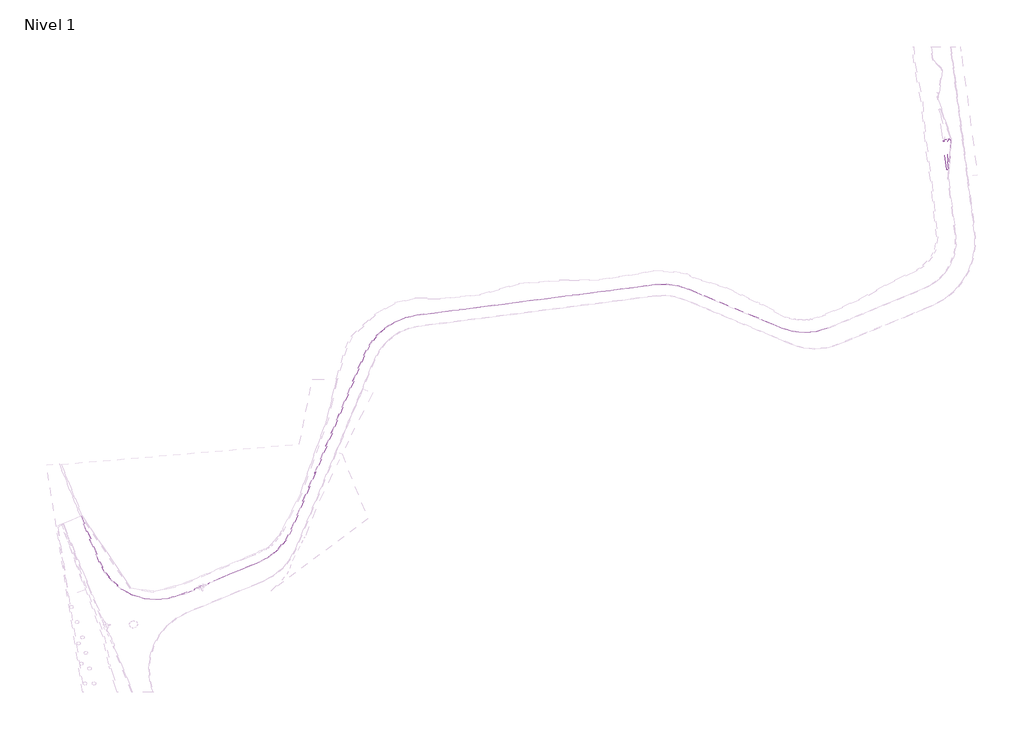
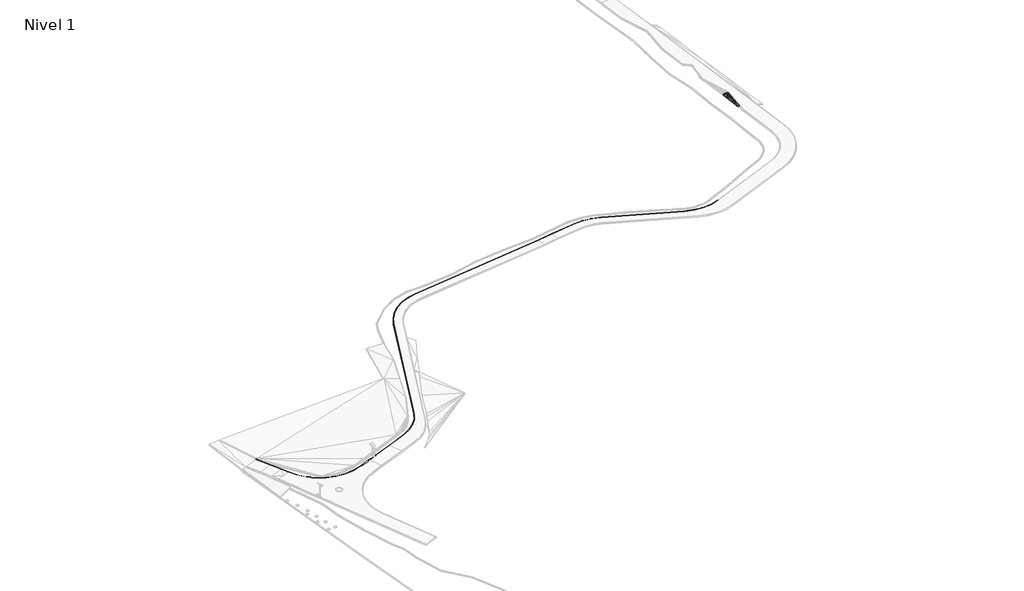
# One storey, part 27 of 45: 2 slabs.
"""IFC4 building model written with IfcOpenShell, lengths in millimetres."""

from ifc_helpers import new_model, si_unit, frame, origin, place, context, project, spatial, polyline, circle_curve, element, save
from ifc_brep_helpers import plane_surface, cylinder_surface, revolved_surface, spline_surface, advanced_brep

model = new_model("IFC4")

# Units and contexts
model_context = context("Model", 3, world=origin())
ifc_project = project(units=[si_unit("LENGTHUNIT", "METRE", prefix="MILLI")], contexts=[model_context])

# Site, building, storey
site = spatial("IfcSite", under=ifc_project)
building = spatial("IfcBuilding", under=site)
storey = spatial("IfcBuildingStorey", under=building, Name="Nivel 1", Elevation=0.0)

# Slabs
placement = place(None, origin())
element("IfcSlab", 1, ObjectType="Lippia", at=placement, inside=storey, context=model_context, shape_type="AdvancedBrep", body=[
    advanced_brep(
    [(-162567.5786683, 494090.7558969, 4450.0), (-162567.5786683, 494090.7558969, 4750.0), (-161681.6513238, 494205.5651445, 4750.0), (-161681.6513238, 494205.5651445, 4450.0), (-161118.6784253, 493673.8662935, 4750.0), (-161118.6784253, 493673.8662935, 4450.0), (-161602.2888203, 486628.6726183, 4750.0), (-161602.2888203, 486628.6726183, 4450.0), (-162099.7928073, 486614.9221203, 4450.0), (-162099.7928073, 486614.9221203, 4750.0), (-162996.2034352, 493532.943617, 4750.0), (-162996.2034352, 493532.943617, 4450.0), (-161802.7474019, 493520.0759594, 5050.0), (-162291.6279719, 493627.6527711, 5050.0), (-161802.7474019, 493520.0759594, 4750.0), (-162291.6279719, 493627.6527711, 4750.0), (-161820.5490628, 491797.9016837, 5250.0), (-161703.3309197, 492062.872506, 5250.0), (-161586.1127766, 492327.8433283, 5250.0), (-161748.7619098, 492670.117686, 5250.0), (-162169.7727813, 492513.350411, 5250.0), (-162232.1284052, 492231.3328847, 5250.0), (-162283.6264845, 491998.4210795, 5250.0), (-162126.0521675, 491659.087425, 5250.0), (-161820.5490628, 491797.9016837, 4950.0), (-162126.0521675, 491659.087425, 4950.0), (-162283.6264845, 491998.4210795, 4950.0), (-162232.1284052, 492231.3328847, 4950.0), (-162169.7727813, 492513.350411, 4950.0), (-161748.7619098, 492670.117686, 4950.0), (-161586.1127766, 492327.8433283, 4950.0), (-161703.3309197, 492062.872506, 4950.0), (-162592.8222153, 493348.0731927, 5050.0), (-162515.4237278, 493566.7206989, 5050.0), (-162592.8222153, 493348.0731927, 4750.0), (-162515.4237278, 493566.7206989, 4750.0), (-161498.579278, 493321.1299659, 5050.0), (-161498.579278, 493321.1299659, 4750.0), (-161409.4960466, 492968.7637731, 5050.0), (-161704.9330823, 490516.0778728, 5050.0), (-161704.9330823, 490516.0778728, 4750.0), (-161409.4960466, 492968.7637731, 4750.0), (-162200.787699, 490511.7668194, 5050.0), (-162200.787699, 490511.7668194, 4750.0), (-161950.95489, 490295.9854212, 5050.0), (-161950.95489, 490295.9854212, 4750.0)],
    [
        (0, 1),
        (1, 2),
        (2, 3),
        (3, 0),
        (2, 4, circle_curve(frame((-161617.3921342, 493709.7081092, 4750.0), z_axis=(0.0, 0.0, -1.0), x_axis=(0.9764306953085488, 0.21583117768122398, 0.0)), 499.9999992)),
        (4, 5),
        (5, 3, circle_curve(frame((-161617.3921342, 493709.7081092, 4450.0), z_axis=(0.0, 0.0, 1.0), x_axis=(0.9764306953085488, 0.21583117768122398, 0.0)), 499.9999992)),
        (4, 6),
        (6, 7),
        (7, 5),
        (8, 9),
        (9, 10),
        (10, 11),
        (11, 8),
        (10, 1, circle_curve(frame((-162500.1106055, 493595.3287472, 4750.0), z_axis=(0.0, 0.0, -1.0), x_axis=(0.9764306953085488, 0.21583117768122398, 0.0)), 500.0000001)),
        (0, 11, circle_curve(frame((-162500.1106055, 493595.3287472, 4450.0), z_axis=(0.0, 0.0, 1.0), x_axis=(0.9764306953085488, 0.21583117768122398, 0.0)), 500.0000001)),
        (2, 12),
        (12, 4),
        (1, 13),
        (13, 2),
        (5, 14),
        (14, 3),
        (3, 15),
        (15, 0),
        (16, 17),
        (17, 18),
        (18, 19),
        (19, 20),
        (20, 21),
        (21, 22),
        (22, 23),
        (23, 16),
        (24, 25),
        (25, 26),
        (26, 27),
        (27, 28),
        (28, 29),
        (29, 30),
        (30, 31),
        (31, 24),
        (20, 32),
        (32, 22),
        (10, 32),
        (32, 33),
        (33, 10),
        (19, 32),
        (26, 34),
        (34, 28),
        (11, 35),
        (35, 34),
        (34, 11),
        (34, 29),
        (32, 12),
        (12, 13),
        (13, 33),
        (19, 12),
        (12, 36),
        (36, 4),
        (35, 15),
        (15, 14),
        (14, 34),
        (14, 29),
        (5, 37),
        (37, 14),
        (4, 38),
        (38, 39),
        (39, 4),
        (19, 38),
        (38, 36),
        (36, 19),
        (5, 40),
        (40, 41),
        (41, 5),
        (29, 37),
        (37, 41),
        (41, 29),
        (22, 42),
        (42, 23),
        (23, 39),
        (39, 16),
        (39, 18),
        (25, 43),
        (43, 26),
        (24, 40),
        (40, 25),
        (30, 40),
        (42, 39),
        (40, 43),
        (1, 33),
        (35, 0),
        (10, 42),
        (42, 32),
        (42, 44),
        (44, 39),
        (18, 38),
        (34, 43),
        (43, 11),
        (40, 45),
        (45, 43),
        (41, 30),
        (6, 9, circle_curve(frame((-161851.7062307, 486645.7936313, 4750.0), z_axis=(0.0, 0.0, -1.0), x_axis=(0.9764306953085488, 0.21583117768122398, 0.0)), 249.9999994)),
        (8, 7, circle_curve(frame((-161851.7062307, 486645.7936313, 4450.0), z_axis=(0.0, 0.0, 1.0), x_axis=(0.9764306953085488, 0.21583117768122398, 0.0)), 249.9999994)),
        (9, 42),
        (9, 44),
        (6, 44),
        (6, 39),
        (43, 8),
        (45, 8),
        (45, 7),
        (40, 7),
    ],
    [
        plane_surface(frame((-162567.5786683, 494090.7558969, 4450.0), z_axis=(-0.12851749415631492, 0.9917072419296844, 0.0), x_axis=(0.0, 0.0, 1.0))),
        cylinder_surface(frame((-161617.3921342, 493709.7081092, 4750.0), z_axis=(0.0, 0.0, -1.0), x_axis=(0.9764306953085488, 0.21583117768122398, 0.0)), 499.9999992),
        plane_surface(frame((-161118.6784253, 493673.8662934, 4450.0), z_axis=(0.9976522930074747, -0.06848286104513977, 0.0), x_axis=(0.0, 0.0, 1.0))),
        plane_surface(frame((-162099.7928073, 486614.9221203, 4450.0), z_axis=(-0.9917092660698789, -0.12850187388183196, 0.0), x_axis=(0.0, 0.0, 1.0))),
        cylinder_surface(frame((-162500.1106055, 493595.3287472, 4750.0), z_axis=(0.0, 0.0, -1.0), x_axis=(0.9764306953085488, 0.21583117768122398, 0.0)), 500.0000001),
        spline_surface(2, 1, [[(-161118.6784253, 493673.8662935, 4750.0), (-161802.7474019, 493520.0759594, 5050.0)], [(-161101.67967018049, 493910.39203994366, 4750.0), (-161802.7474019, 493520.0759594, 5050.0)], [(-161274.0806319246, 494073.2149338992, 4750.0), (-161802.7474019, 493520.0759594, 5050.0)], [(-161446.48159361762, 494236.0378278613, 4750.0), (-161802.7474019, 493520.0759594, 5050.0)], [(-161681.6508812, 494205.5617293, 4750.0), (-161802.7474019, 493520.0759594, 5050.0)]], [3, 2, 3], [2, 2], [0.0, 1.0, 2.0], [0.0, 1.0], weights=[[1.0, 1.0], [0.9035324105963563, 0.9035324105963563], [1.0, 1.0], [0.9035324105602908, 0.9035324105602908], [1.0, 1.0]]),
        plane_surface(frame((-162180.285988, 493974.6579375, 4850.0), z_axis=(-0.0666376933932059, 0.5142107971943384, 0.8550711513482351), x_axis=(-0.9917072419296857, -0.1285174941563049, 0.0))),
        spline_surface(1, 2, [[(-161118.6784253, 493673.8662935, 4450.0), (-161101.67967018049, 493910.39203994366, 4450.0), (-161274.0806319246, 494073.2149338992, 4450.0), (-161446.48159361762, 494236.0378278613, 4450.0), (-161681.6508812, 494205.5617293, 4450.0)], [(-161802.7474019, 493520.0759594, 4750.0), (-161802.7474019, 493520.0759594, 4750.0), (-161802.7474019, 493520.0759594, 4750.0), (-161802.7474019, 493520.0759594, 4750.0), (-161802.7474019, 493520.0759594, 4750.0)]], [2, 2], [3, 2, 3], [0.0, 1.0], [0.0, 1.0, 2.0], weights=[[1.0, 0.9035324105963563, 1.0, 0.9035324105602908, 1.0], [1.0, 0.9035324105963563, 1.0, 0.9035324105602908, 1.0]]),
        plane_surface(frame((-162180.285988, 493974.6579375, 4550.0), z_axis=(0.0666376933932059, -0.5142107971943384, -0.8550711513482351), x_axis=(-0.9917072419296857, -0.1285174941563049, 0.0))),
        plane_surface(frame((-161955.8125304, 492161.1202689, 5250.0), z_axis=(0.0, 0.0, 1.0), x_axis=(0.40456233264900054, 0.914510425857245, 0.0))),
        plane_surface(frame((-161955.8125304, 492161.1202689, 4950.0), z_axis=(0.0, 0.0, -1.0), x_axis=(0.40456233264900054, 0.914510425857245, 0.0))),
        plane_surface(frame((-162348.7404937, 492619.9482277, 5183.3333333), z_axis=(-0.31191156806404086, 0.06896536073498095, 0.9476048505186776), x_axis=(0.2158912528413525, 0.9764174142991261, 0.0))),
        plane_surface(frame((-162701.4831261, 493482.5791695, 4950.0), z_axis=(-0.5294434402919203, 0.18741636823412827, 0.8273842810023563), x_axis=(0.7531046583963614, -0.3451493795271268, 0.5600939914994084))),
        plane_surface(frame((-162170.4523021, 492843.8470966, 5183.3333333), z_axis=(-0.07337556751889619, 0.19705586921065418, 0.9776425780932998), x_axis=(-0.7666747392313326, 0.6157988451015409, -0.18166349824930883))),
        plane_surface(frame((-162348.7404937, 492619.9482277, 4883.3333333), z_axis=(0.31191156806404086, -0.06896536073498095, -0.9476048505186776), x_axis=(0.2158912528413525, 0.9764174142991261, 0.0))),
        plane_surface(frame((-162701.4831261, 493482.5791695, 4650.0), z_axis=(0.5294434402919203, -0.18741636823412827, -0.8273842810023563), x_axis=(0.7531046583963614, -0.3451493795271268, 0.5600939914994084))),
        plane_surface(frame((-162170.4523021, 492843.8470966, 4883.3333333), z_axis=(0.07337556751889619, -0.19705586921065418, -0.9776425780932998), x_axis=(-0.7666747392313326, 0.6157988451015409, -0.18166349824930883))),
        plane_surface(frame((-162300.6553292, 493515.6306555, 5050.0), z_axis=(0.0, 0.0, 1.0000000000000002), x_axis=(0.9771128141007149, 0.2127217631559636, 0.0))),
        plane_surface(frame((-162048.110509, 493179.4222794, 5116.6666667), z_axis=(-0.04916055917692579, 0.22581334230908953, 0.972929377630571), x_axis=(-0.06170905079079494, 0.9715595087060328, -0.22861346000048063))),
        plane_surface(frame((-161473.3350351, 493505.0240729, 4950.0), z_axis=(0.280324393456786, 0.4285873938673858, 0.8589127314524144), x_axis=(-0.8969887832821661, -0.2016583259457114, 0.39337646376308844))),
        plane_surface(frame((-161925.3422325, 493784.4312917, 4950.0), z_axis=(0.08511790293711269, 0.3868165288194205, 0.9182199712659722), x_axis=(-0.6836626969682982, -0.6477250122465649, 0.3362404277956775))),
        plane_surface(frame((-162300.6553292, 493515.6306555, 4750.0), z_axis=(0.0, 0.0, -1.0000000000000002), x_axis=(0.9771128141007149, 0.2127217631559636, 0.0))),
        plane_surface(frame((-162048.110509, 493179.4222794, 4816.6666667), z_axis=(0.04916055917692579, -0.22581334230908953, -0.972929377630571), x_axis=(-0.06170905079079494, 0.9715595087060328, -0.22861346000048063))),
        plane_surface(frame((-161473.3350351, 493505.0240729, 4650.0), z_axis=(-0.280324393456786, -0.4285873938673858, -0.8589127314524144), x_axis=(-0.8969887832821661, -0.2016583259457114, 0.39337646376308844))),
        plane_surface(frame((-161925.3422325, 493784.4312917, 4650.0), z_axis=(-0.08511790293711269, -0.3868165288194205, -0.9182199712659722), x_axis=(-0.6836626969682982, -0.6477250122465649, 0.3362404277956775))),
        plane_surface(frame((-161411.0358514, 492386.2359798, 4950.0), z_axis=(0.8204736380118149, -0.09882973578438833, 0.5630769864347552), x_axis=(-0.35482864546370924, -0.8603005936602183, 0.3660321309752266))),
        plane_surface(frame((-161552.2790781, 492986.670475, 5116.6666667), z_axis=(0.4317439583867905, 0.10915106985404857, 0.8953676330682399), x_axis=(0.686414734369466, 0.604231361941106, -0.40464709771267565))),
        plane_surface(frame((-161411.0358514, 492386.2359798, 4650.0), z_axis=(-0.8204736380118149, 0.09882973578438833, -0.5630769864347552), x_axis=(-0.35482864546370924, -0.8603005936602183, 0.3660321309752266))),
        plane_surface(frame((-161552.2790781, 492986.670475, 4816.6666667), z_axis=(-0.4317439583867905, -0.10915106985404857, -0.8953676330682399), x_axis=(0.686414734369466, 0.604231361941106, -0.40464709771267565))),
        plane_surface(frame((-162203.4887837, 491389.7584413, 5183.3333333), z_axis=(-0.30945755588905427, -0.14370093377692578, 0.9399925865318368), x_axis=(-0.4211696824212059, 0.9069818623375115, 0.0))),
        plane_surface(frame((-161883.8447709, 491324.3556605, 5183.3333333), z_axis=(0.06719998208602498, -0.14789405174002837, 0.9867175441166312), x_axis=(-0.910423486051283, -0.41367750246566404, 0.0))),
        plane_surface(frame((-161703.8649739, 491547.2742949, 5183.3333333), z_axis=(0.27900011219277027, -0.12342443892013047, 0.9523262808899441), x_axis=(0.08876641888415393, -0.9841451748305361, -0.15355389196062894))),
        plane_surface(frame((-162203.4887837, 491389.7584413, 4883.3333333), z_axis=(0.30945755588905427, 0.14370093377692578, -0.9399925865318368), x_axis=(-0.4211696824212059, 0.9069818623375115, 0.0))),
        plane_surface(frame((-161883.8447709, 491324.3556605, 4883.3333333), z_axis=(-0.06719998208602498, 0.14789405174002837, -0.9867175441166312), x_axis=(-0.910423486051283, -0.41367750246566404, 0.0))),
        plane_surface(frame((-161703.8649739, 491547.2742949, 4883.3333333), z_axis=(-0.27900011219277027, 0.12342443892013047, -0.9523262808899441), x_axis=(0.08876641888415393, -0.9841451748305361, -0.15355389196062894))),
        plane_surface(frame((-162010.5909829, 490895.6440391, 5116.6666667), z_axis=(0.0014938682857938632, -0.17182377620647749, 0.9851265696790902), x_axis=(-0.06403976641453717, -0.9831219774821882, -0.17137702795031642))),
        plane_surface(frame((-162010.5909829, 490895.6440391, 4816.6666667), z_axis=(-0.0014938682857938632, 0.17182377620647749, -0.9851265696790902), x_axis=(-0.06403976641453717, -0.9831219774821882, -0.17137702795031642))),
        plane_surface(frame((-162458.2101227, 493761.709789, 4950.0), z_axis=(-0.13140574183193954, 0.4826365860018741, 0.8659067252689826), x_axis=(0.086052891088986, -0.8646303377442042, 0.49498411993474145))),
        spline_surface(2, 1, [[(-162567.5786683, 494090.7558969, 4750.0), (-162515.4237278, 493566.7206989, 5050.0)], [(-163057.95220481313, 494023.97604324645, 4750.0), (-162515.4237278, 493566.7206989, 5050.0)], [(-162996.2034352, 493532.943617, 4750.0), (-162515.4237278, 493566.7206989, 5050.0)]], [3, 3], [2, 2], [0.0, 1.0], [0.0, 1.0], weights=[[1.0, 1.0], [0.7107223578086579, 0.7107223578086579], [1.0, 1.0]]),
        plane_surface(frame((-162458.2101227, 493761.709789, 4650.0), z_axis=(0.13140574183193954, -0.4826365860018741, -0.8659067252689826), x_axis=(0.086052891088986, -0.8646303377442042, 0.49498411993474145))),
        spline_surface(1, 2, [[(-162567.5786683, 494090.7558969, 4450.0), (-163057.95220481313, 494023.97604324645, 4450.0), (-162996.2034352, 493532.943617, 4450.0)], [(-162515.4237278, 493566.7206989, 4750.0), (-162515.4237278, 493566.7206989, 4750.0), (-162515.4237278, 493566.7206989, 4750.0)]], [2, 2], [3, 3], [0.0, 1.0], [0.0, 1.0], weights=[[1.0, 0.7107223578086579, 1.0], [1.0, 0.7107223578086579, 1.0]]),
        plane_surface(frame((-161683.3628632, 493170.4412037, 5116.6666667), z_axis=(0.15408310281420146, 0.23557734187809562, 0.9595632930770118), x_axis=(0.34482264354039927, 0.8972796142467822, -0.27565674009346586))),
        plane_surface(frame((-161683.3628632, 493170.4412037, 4816.6666667), z_axis=(-0.15408310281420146, -0.23557734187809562, -0.9595632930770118), x_axis=(0.34482264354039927, 0.8972796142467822, -0.27565674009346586))),
        plane_surface(frame((-162596.6044499, 492464.2612097, 4950.0), z_axis=(-0.6195468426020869, -0.0856338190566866, 0.7802746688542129), x_axis=(0.2534380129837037, -0.9626174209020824, 0.09558699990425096))),
        plane_surface(frame((-161952.2252238, 490441.2767045, 5050.0), z_axis=(0.0, 0.0, 1.0), x_axis=(-0.999962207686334, -0.008693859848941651, 0.0))),
        plane_surface(frame((-161581.456911, 492655.5749291, 5183.3333333), z_axis=(0.37758066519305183, 0.17942672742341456, 0.9084266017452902), x_axis=(0.42920496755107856, -0.9032071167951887, 0.0))),
        plane_surface(frame((-161342.25125, 493321.2533441, 4950.0), z_axis=(0.5338566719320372, 0.1349666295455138, 0.8347341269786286), x_axis=(-0.6342723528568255, -0.5889191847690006, 0.5008720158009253))),
        plane_surface(frame((-162596.6044499, 492464.2612097, 4650.0), z_axis=(0.6195468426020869, 0.0856338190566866, -0.7802746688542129), x_axis=(0.2534380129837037, -0.9626174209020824, 0.09558699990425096))),
        plane_surface(frame((-161952.2252238, 490441.2767045, 4750.0), z_axis=(0.0, 0.0, -1.0), x_axis=(-0.999962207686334, -0.008693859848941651, 0.0))),
        plane_surface(frame((-161581.456911, 492655.5749291, 4883.3333333), z_axis=(-0.37758066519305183, -0.17942672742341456, -0.9084266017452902), x_axis=(0.42920496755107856, -0.9032071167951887, 0.0))),
        plane_surface(frame((-161342.25125, 493321.2533441, 4650.0), z_axis=(-0.5338566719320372, -0.1349666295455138, -0.8347341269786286), x_axis=(-0.6342723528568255, -0.5889191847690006, 0.5008720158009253))),
        plane_surface(frame((-162359.0787996, 491952.7536972, 5116.6666667), z_axis=(-0.8466189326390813, -0.11701974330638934, 0.5191750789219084), x_axis=(-0.22101411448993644, 0.9647357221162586, -0.1429606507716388))),
        plane_surface(frame((-162359.0787996, 491952.7536972, 4816.6666667), z_axis=(0.8466189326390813, 0.11701974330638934, -0.5191750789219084), x_axis=(-0.22101411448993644, 0.9647357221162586, -0.1429606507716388))),
        plane_surface(frame((-161566.8473019, 491937.5616581, 5116.6666667), z_axis=(0.8903082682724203, -0.10724163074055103, 0.4425499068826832), x_axis=(-0.06504857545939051, -0.9918570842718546, -0.10949067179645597))),
        plane_surface(frame((-161566.8473019, 491937.5616581, 4816.6666667), z_axis=(-0.8903082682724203, 0.10724163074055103, -0.4425499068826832), x_axis=(-0.06504857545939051, -0.9918570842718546, -0.10949067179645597))),
        cylinder_surface(frame((-161851.7062307, 486645.7936313, 4750.0), z_axis=(0.0, 0.0, -1.0), x_axis=(0.9764306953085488, 0.21583117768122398, 0.0)), 249.9999994),
        plane_surface(frame((-162432.2613138, 490219.8775189, 4850.0), z_axis=(-0.5944601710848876, -0.07702786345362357, 0.8004272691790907), x_axis=(0.1285018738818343, -0.9917092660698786, 0.0))),
        plane_surface(frame((-162083.8451321, 489140.8914536, 4950.0), z_axis=(-0.06764975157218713, -0.07832522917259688, 0.9946299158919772), x_axis=(0.02583200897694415, -0.9967170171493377, -0.07673262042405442))),
        spline_surface(2, 1, [[(-162099.7928073, 486614.9221203, 4750.0), (-161950.95489, 490295.9854212, 5050.0)], [(-162071.75606360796, 486389.61601974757, 4750.0), (-161950.95489, 490295.9854212, 5050.0)], [(-161844.79891620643, 486395.8890721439, 4750.0), (-161950.95489, 490295.9854212, 5050.0)], [(-161617.84176880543, 486402.1621245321, 4750.0), (-161950.95489, 490295.9854212, 5050.0)], [(-161602.2931581, 486628.672916, 4750.0), (-161950.95489, 490295.9854212, 5050.0)]], [3, 2, 3], [2, 2], [0.0, 1.0, 2.0], [0.0, 1.0], weights=[[1.0, 1.0], [0.7402773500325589, 0.7402773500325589], [1.0, 1.0], [0.7402773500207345, 0.7402773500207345], [1.0, 1.0]]),
        plane_surface(frame((-161752.7255976, 489146.9119708, 4950.0), z_axis=(0.06710314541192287, -0.07500864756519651, 0.9949225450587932), x_axis=(-0.7452899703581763, -0.6667404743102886, 0.0))),
        plane_surface(frame((-161475.3001093, 490272.8722615, 4850.0), z_axis=(0.6297354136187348, -0.04322756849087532, 0.7756060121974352), x_axis=(-0.18174335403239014, -0.9789381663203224, 0.09300225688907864))),
        plane_surface(frame((-162432.2613138, 490219.8775189, 4550.0), z_axis=(0.5944601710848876, 0.07702786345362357, -0.8004272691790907), x_axis=(0.1285018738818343, -0.9917092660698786, 0.0))),
        plane_surface(frame((-162083.8451321, 489140.8914536, 4650.0), z_axis=(0.06764975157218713, 0.07832522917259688, -0.9946299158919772), x_axis=(0.02583200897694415, -0.9967170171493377, -0.07673262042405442))),
        spline_surface(1, 2, [[(-162099.7928073, 486614.9221203, 4450.0), (-162071.75606360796, 486389.61601974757, 4450.0), (-161844.79891620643, 486395.8890721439, 4450.0), (-161617.84176880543, 486402.1621245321, 4450.0), (-161602.2931581, 486628.672916, 4450.0)], [(-161950.95489, 490295.9854212, 4750.0), (-161950.95489, 490295.9854212, 4750.0), (-161950.95489, 490295.9854212, 4750.0), (-161950.95489, 490295.9854212, 4750.0), (-161950.95489, 490295.9854212, 4750.0)]], [2, 2], [3, 2, 3], [0.0, 1.0], [0.0, 1.0, 2.0], weights=[[1.0, 0.7402773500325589, 1.0, 0.7402773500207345, 1.0], [1.0, 0.7402773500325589, 1.0, 0.7402773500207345, 1.0]]),
        plane_surface(frame((-161752.7255976, 489146.9119708, 4650.0), z_axis=(-0.06710314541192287, 0.07500864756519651, -0.9949225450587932), x_axis=(-0.7452899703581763, -0.6667404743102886, 0.0))),
        plane_surface(frame((-161475.3001093, 490272.8722615, 4550.0), z_axis=(-0.6297354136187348, 0.04322756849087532, -0.7756060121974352), x_axis=(-0.18174335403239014, -0.9789381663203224, 0.09300225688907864))),
    ],
    [
        (0, [[1, 2, 3, 4]]),
        (1, [[-3, 5, 6, 7]]),
        (2, [[-6, 8, 9, 10]]),
        (3, [[11, 12, 13, 14]]),
        (4, [[-13, 15, -1, 16]]),
        (5, [[-5, 17, 18]]),
        (6, [[-2, 19, 20]]),
        (7, [[21, 22, -7]]),
        (8, [[23, 24, -4]]),
        (9, [[25, 26, 27, 28, 29, 30, 31, 32]]),
        (10, [[33, 34, 35, 36, 37, 38, 39, 40]]),
        (11, [[-29, 41, 42, -30]]),
        (12, [[43, 44, 45]]),
        (13, [[46, -41, -28]]),
        (14, [[-35, 47, 48, -36]]),
        (15, [[49, 50, 51]]),
        (16, [[-37, -48, 52]]),
        (17, [[53, 54, 55, -44]]),
        (18, [[56, -53, -46]]),
        (19, [[-18, 57, 58]]),
        (20, [[-20, -54, -17]]),
        (21, [[-50, 59, 60, 61]]),
        (22, [[-52, -61, 62]]),
        (23, [[63, 64, -21]]),
        (24, [[-22, -60, -23]]),
        (25, [[65, 66, 67]]),
        (26, [[68, 69, 70]]),
        (27, [[71, 72, 73]]),
        (28, [[74, 75, 76]]),
        (29, [[-31, 77, 78]]),
        (30, [[-32, 79, 80]]),
        (31, [[-80, 81, -26, -25]]),
        (32, [[82, 83, -34]]),
        (33, [[84, 85, -33]]),
        (34, [[-40, -39, 86, -84]]),
        (35, [[-78, 87, -79]]),
        (36, [[-85, 88, -82]]),
        (37, [[89, -55, -19]]),
        (38, [[-45, -89, -15]]),
        (39, [[-24, -59, 90]]),
        (40, [[-16, -90, -49]]),
        (41, [[-70, -57, -56]]),
        (42, [[-62, -64, -74]]),
        (43, [[91, 92, -43]]),
        (44, [[-87, 93, 94]]),
        (45, [[-27, 95, -68]]),
        (46, [[-58, -69, -65]]),
        (47, [[-51, 96, 97]]),
        (48, [[98, 99, -88]]),
        (49, [[-76, 100, -38]]),
        (50, [[-73, -75, -63]]),
        (51, [[-42, -92, -77]]),
        (52, [[-83, -96, -47]]),
        (53, [[-81, -66, -95]]),
        (54, [[-100, -72, -86]]),
        (55, [[-9, 101, -11, 102]]),
        (56, [[-12, 103, -91]]),
        (57, [[-103, 104, -93]]),
        (58, [[-104, -101, 105]]),
        (59, [[-94, -105, 106]]),
        (60, [[-67, -106, -8]]),
        (61, [[-97, 107, -14]]),
        (62, [[-99, 108, -107]]),
        (63, [[109, -102, -108]]),
        (64, [[110, -109, -98]]),
        (65, [[-10, -110, -71]]),
    ],
),
])
element("IfcSlab", 2, ObjectType="Bordillo", at=placement, inside=storey, context=model_context, shape_type="AdvancedBrep", body=[
    advanced_brep(
    [(-378562.4990268, 399847.3630097, 3663.25037), (-378562.4990268, 399847.3630097, 4063.25037), (-378423.7991833, 399904.4829061, 4063.3), (-378423.7991833, 399904.4829061, 3663.3), (-373720.8797853, 388484.7460804, 4750.0), (-373720.8797853, 388484.7460804, 4350.0), (-353943.3130584, 380245.431587, 4750.0), (-353943.3130584, 380245.431587, 4350.0), (-350052.1297128, 381847.9134888, 4750.0), (-350052.1297128, 381847.9134888, 4350.0), (-349928.4110088, 381898.8637955, 4750.0), (-340681.8224096, 385706.8290368, 4500.0), (-340681.8224096, 385706.8290368, 4100.0), (-349928.4110088, 381898.8637955, 4350.0), (-334106.2883337, 388414.7904481, 4500.0), (-334106.2883337, 388414.7904481, 4100.0), (-325890.4458939, 396597.1556666, 4500.0), (-325890.4458939, 396597.1556666, 4100.0), (-318583.0177824, 414137.47925, 4500.0), (-318583.0177824, 414137.47925, 4100.0), (-307773.5900533, 440083.7981518, 4500.0), (-307773.5900533, 440083.7981518, 4100.0), (-294520.3427684, 450195.5705574, 4500.0), (-294520.3427684, 450195.5705574, 4100.0), (-248558.9279102, 456085.1498634, 4500.0), (-243599.4799913, 456720.6625413, 4750.0), (-235044.0118656, 457816.9757897, 4750.0), (-235044.0118656, 457816.9757897, 4350.0), (-243599.4799913, 456720.6625413, 4350.0), (-248558.9279102, 456085.1498634, 4100.0), (-226524.6850307, 456671.5685298, 4750.0), (-226524.6850307, 456671.5685298, 4350.0), (-211025.9212106, 450214.6692686, 4750.0), (-211025.9212106, 450214.6692686, 4350.0), (-203404.8066772, 447039.6567998, 4750.0), (-203404.8066772, 447039.6567998, 4350.0), (-191809.5228519, 447015.9848449, 4750.0), (-191809.5228519, 447015.9848449, 4350.0), (-191752.4033753, 446877.2860207, 4750.0), (-191752.4033753, 446877.2860207, 4350.0), (-203462.4920098, 446901.1923558, 4750.0), (-203462.4920098, 446901.1923558, 4350.0), (-226582.3702869, 456533.104083, 4750.0), (-226582.3702869, 456533.104083, 4350.0), (-235024.9464339, 457668.1923603, 4750.0), (-235024.9464339, 457668.1923603, 4350.0), (-243639.4941372, 456564.3085474, 4750.0), (-248539.8625301, 455936.3664275, 4500.0), (-294501.2773884, 450046.7871218, 4500.0), (-294501.2773884, 450046.7871218, 4100.0), (-248539.8625301, 455936.3664275, 4100.0), (-243639.4941372, 456564.3085474, 4350.0), (-307635.1753968, 440025.9933123, 4500.0), (-307635.1753968, 440025.9933123, 4100.0), (-325751.9814359, 396539.4703663, 4500.0), (-325751.9814359, 396539.4703663, 4100.0), (-334049.1688387, 388276.091627, 4500.0), (-334049.1688387, 388276.091627, 4100.0), (-340624.70293, 385568.130205, 4500.0), (-340624.70293, 385568.130205, 4100.0), (-346322.296614, 383221.7255313, 4654.045614), (-346322.296614, 383221.7255313, 4254.045614), (-347336.8753034, 382533.527766, 4684.050634), (-347336.8753034, 382533.527766, 4284.050634), (-348520.4386289, 382046.1082482, 4716.0505883), (-348520.4386289, 382046.1082482, 4316.0505883), (-349725.228789, 381820.3170789, 4746.0505558), (-349725.228789, 381820.3170789, 4346.0505558), (-349858.7598404, 381729.7352296, 4750.0), (-350739.6203091, 381132.1965339, 4750.0), (-350739.6203091, 381132.1965339, 4350.0), (-349858.7598404, 381729.7352296, 4350.0), (-352681.4037846, 380332.5239002, 4750.0), (-352681.4037846, 380332.5239002, 4350.0), (-353886.1935709, 380106.7327556, 4750.0), (-353886.1935709, 380106.7327556, 4350.0), (-373859.697502, 388427.9152888, 4750.0), (-373859.697502, 388427.9152888, 4350.0)],
    [
        (0, 1),
        (1, 2),
        (2, 3),
        (3, 0),
        (2, 4),
        (4, 5),
        (5, 3),
        (4, 6, circle_curve(frame((-359712.3803839, 394254.0133191, 4750.0), z_axis=(0.0, 0.0, 1.0), x_axis=(1.0, 0.0, 0.0)), 15149.9999984)),
        (6, 7),
        (7, 5, circle_curve(frame((-359712.3803839, 394254.0133191, 4350.0), z_axis=(0.0, 0.0, -1.0), x_axis=(1.0, 0.0, 0.0)), 15149.9999984)),
        (6, 8),
        (8, 9),
        (9, 7),
        (8, 10),
        (10, 11),
        (11, 12),
        (12, 13),
        (13, 9),
        (11, 14),
        (14, 15),
        (15, 12),
        (14, 16, circle_curve(frame((-339875.3556571, 402423.3721835, 4500.0), z_axis=(0.0, 0.0, 1.0), x_axis=(1.0, 0.0, 0.0)), 15149.9999996)),
        (16, 17),
        (17, 15, circle_curve(frame((-339875.3556571, 402423.3721835, 4100.0), z_axis=(0.0, 0.0, -1.0), x_axis=(1.0, 0.0, 0.0)), 15149.9999996)),
        (16, 18),
        (18, 19),
        (19, 17),
        (18, 20),
        (20, 21),
        (21, 19),
        (20, 22, circle_curve(frame((-292404.0855524, 433680.6089965, 4500.0), z_axis=(0.0, 0.0, -1.0), x_axis=(1.0, 0.0, 0.0)), 16649.9999988)),
        (22, 23),
        (23, 21, circle_curve(frame((-292404.0855524, 433680.6089965, 4100.0), z_axis=(0.0, 0.0, 1.0), x_axis=(1.0, 0.0, 0.0)), 16649.9999988)),
        (22, 24),
        (24, 25),
        (25, 26),
        (26, 27),
        (27, 28),
        (28, 29),
        (29, 23),
        (26, 30, circle_curve(frame((-232927.7546498, 441302.0142304, 4750.0), z_axis=(0.0, 0.0, -1.0), x_axis=(1.0, 0.0, 0.0)), 16649.9999973)),
        (30, 31),
        (31, 27, circle_curve(frame((-232927.7546498, 441302.0142304, 4350.0), z_axis=(0.0, 0.0, 1.0), x_axis=(1.0, 0.0, 0.0)), 16649.9999973)),
        (30, 32),
        (32, 33),
        (33, 31),
        (32, 34),
        (34, 35),
        (35, 33),
        (34, 36, circle_curve(frame((-197578.5901872, 461024.5665746, 4750.0), z_axis=(0.0, 0.0, 1.0), x_axis=(1.0, 0.0, 0.0)), 15149.9999999)),
        (36, 37),
        (37, 35, circle_curve(frame((-197578.5901872, 461024.5665746, 4350.0), z_axis=(0.0, 0.0, -1.0), x_axis=(1.0, 0.0, 0.0)), 15149.9999999)),
        (36, 38),
        (38, 39),
        (39, 37),
        (38, 40, circle_curve(frame((-197578.5901933, 461024.5665775, 4750.0), z_axis=(0.0, 0.0, -1.0), x_axis=(1.0, 0.0, 0.0)), 15299.9999998)),
        (40, 41),
        (41, 39, circle_curve(frame((-197578.5901933, 461024.5665775, 4350.0), z_axis=(0.0, 0.0, 1.0), x_axis=(1.0, 0.0, 0.0)), 15299.9999998)),
        (40, 42),
        (42, 43),
        (43, 41),
        (42, 44, circle_curve(frame((-232927.7545984, 441302.0142372, 4750.0), z_axis=(0.0, 0.0, 1.0), x_axis=(1.0, 0.0, 0.0)), 16499.9999986)),
        (44, 45),
        (45, 43, circle_curve(frame((-232927.7545984, 441302.0142372, 4350.0), z_axis=(0.0, 0.0, -1.0), x_axis=(1.0, 0.0, 0.0)), 16499.9999986)),
        (44, 46),
        (46, 47),
        (47, 48),
        (48, 49),
        (49, 50),
        (50, 51),
        (51, 45),
        (48, 52, circle_curve(frame((-292404.0855532, 433680.6090008, 4500.0), z_axis=(0.0, 0.0, 1.0), x_axis=(1.0, 0.0, 0.0)), 16499.9999964)),
        (52, 53),
        (53, 49, circle_curve(frame((-292404.0855532, 433680.6090008, 4100.0), z_axis=(0.0, 0.0, -1.0), x_axis=(1.0, 0.0, 0.0)), 16499.9999964)),
        (52, 54),
        (54, 55),
        (55, 53),
        (54, 56, circle_curve(frame((-339875.3556572, 402423.3721835, 4500.0), z_axis=(0.0, 0.0, -1.0), x_axis=(1.0, 0.0, 0.0)), 15299.9999997)),
        (56, 57),
        (57, 55, circle_curve(frame((-339875.3556572, 402423.3721835, 4100.0), z_axis=(0.0, 0.0, 1.0), x_axis=(1.0, 0.0, 0.0)), 15299.9999997)),
        (56, 58),
        (58, 59),
        (59, 57),
        (58, 60),
        (60, 61),
        (61, 59),
        (60, 62),
        (62, 63),
        (63, 61),
        (62, 64),
        (64, 65),
        (65, 63),
        (64, 66),
        (66, 67),
        (67, 65),
        (66, 68),
        (68, 69),
        (69, 70),
        (70, 71),
        (71, 67),
        (69, 72),
        (72, 73),
        (73, 70),
        (72, 74),
        (74, 75),
        (75, 73),
        (74, 76, circle_curve(frame((-359712.3803791, 394254.0133172, 4750.0), z_axis=(0.0, 0.0, -1.0), x_axis=(1.0, 0.0, 0.0)), 15300.0000004)),
        (76, 77),
        (77, 75, circle_curve(frame((-359712.3803791, 394254.0133172, 4350.0), z_axis=(0.0, 0.0, 1.0), x_axis=(1.0, 0.0, 0.0)), 15300.0000004)),
        (76, 1),
        (0, 77),
        (68, 10),
        (4, 76),
        (77, 5),
        (13, 71),
        (25, 46),
        (51, 28),
        (24, 47),
        (46, 24),
        (29, 51),
        (50, 29),
        (60, 11),
        (10, 60),
        (58, 11),
        (61, 13),
        (12, 61),
        (12, 59),
        (2, 76),
        (77, 3),
        (64, 10),
        (10, 66),
        (67, 13),
        (13, 65),
        (10, 62),
        (63, 13),
    ],
    [
        plane_surface(frame((-378562.4990268, 399847.3630097, 4600.0), z_axis=(-0.3807965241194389, 0.9246588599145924, 0.0), x_axis=(0.0, 0.0, 1.0))),
        plane_surface(frame((-378423.7991833, 399904.4829061, 4600.0), z_axis=(0.9246588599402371, 0.3807965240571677, 0.0), x_axis=(0.0, 0.0, 1.0))),
        revolved_surface(polyline([(-344562.38038550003, 394254.0133191, 4750.0), (-344562.38038550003, 394254.0133191, 4350.0)]), (-359712.3803839, 394254.0133191, 5000.0), (0.0, 0.0, 1.0)),
        plane_surface(frame((-353943.3130584, 380245.431587, 4600.0), z_axis=(-0.38079652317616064, 0.9246588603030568, 0.0), x_axis=(0.0, 0.0, 1.0))),
        plane_surface(frame((-350052.1297128, 381847.9134888, 4600.0), z_axis=(-0.3807965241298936, 0.9246588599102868, 0.0), x_axis=(0.0, 0.0, 1.0))),
        plane_surface(frame((-340681.8224096, 385706.8290368, 4600.0), z_axis=(-0.38079652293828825, 0.9246588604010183, 0.0), x_axis=(0.0, 0.0, 1.0))),
        revolved_surface(polyline([(-324725.3556575, 402423.3721835, 4500.0), (-324725.3556575, 402423.3721835, 4100.0)]), (-339875.3556571, 402423.3721835, 5000.0), (0.0, 0.0, 1.0)),
        plane_surface(frame((-325890.4458939, 396597.1556666, 4600.0), z_axis=(-0.9230963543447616, 0.3845687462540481, 0.0), x_axis=(0.0, 0.0, 1.0))),
        plane_surface(frame((-318583.0177824, 414137.47925, 4600.0), z_axis=(-0.9230963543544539, 0.38456874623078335, 0.0), x_axis=(0.0, 0.0, 1.0))),
        cylinder_surface(frame((-292404.0855524, 433680.6089965, 5000.0), z_axis=(0.0, 0.0, -1.0), x_axis=(1.0, 0.0, 0.0)), 16649.9999988),
        plane_surface(frame((-294520.3427684, 450195.5705574, 4600.0), z_axis=(-0.1271025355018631, 0.9918895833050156, 0.0), x_axis=(0.0, 0.0, 1.0))),
        cylinder_surface(frame((-232927.7546498, 441302.0142304, 5000.0), z_axis=(0.0, 0.0, -1.0), x_axis=(1.0, 0.0, 0.0)), 16649.9999973),
        plane_surface(frame((-226524.6850307, 456671.5685298, 4600.0), z_axis=(0.3845687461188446, 0.9230963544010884, 0.0), x_axis=(0.0, 0.0, 1.0))),
        plane_surface(frame((-211025.9212106, 450214.6692686, 4600.0), z_axis=(0.3845687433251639, 0.9230963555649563, 0.0), x_axis=(0.0, 0.0, 1.0))),
        revolved_surface(polyline([(-182428.5901873, 461024.5665746, 4750.0), (-182428.5901873, 461024.5665746, 4350.0)]), (-197578.5901872, 461024.5665746, 5000.0), (0.0, 0.0, 1.0)),
        plane_surface(frame((-191809.5228519, 447015.9848449, 4600.0), z_axis=(0.9246588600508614, 0.38079652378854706, 0.0), x_axis=(0.0, 0.0, 1.0))),
        cylinder_surface(frame((-197578.5901933, 461024.5665775, 5000.0), z_axis=(0.0, 0.0, -1.0), x_axis=(1.0, 0.0, 0.0)), 15299.9999998),
        plane_surface(frame((-203462.4920098, 446901.1923558, 4600.0), z_axis=(-0.3845687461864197, -0.9230963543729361, 0.0), x_axis=(0.0, 0.0, 1.0))),
        revolved_surface(polyline([(-216427.7545998, 441302.0142372, 4750.0), (-216427.7545998, 441302.0142372, 4350.0)]), (-232927.7545984, 441302.0142372, 5000.0), (0.0, 0.0, 1.0)),
        plane_surface(frame((-235024.9464339, 457668.1923603, 4600.0), z_axis=(0.12710253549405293, -0.9918895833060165, 0.0), x_axis=(0.0, 0.0, 1.0))),
        revolved_surface(polyline([(-275904.0855568, 433680.6090008, 4500.0), (-275904.0855568, 433680.6090008, 4100.0)]), (-292404.0855532, 433680.6090008, 5000.0), (0.0, 0.0, 1.0)),
        plane_surface(frame((-307635.1753968, 440025.9933123, 4600.0), z_axis=(0.9230963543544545, -0.3845687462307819, 0.0), x_axis=(0.0, 0.0, 1.0))),
        cylinder_surface(frame((-339875.3556572, 402423.3721835, 5000.0), z_axis=(0.0, 0.0, -1.0), x_axis=(1.0, 0.0, 0.0)), 15299.9999997),
        plane_surface(frame((-334049.1688387, 388276.091627, 4600.0), z_axis=(0.3807965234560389, -0.9246588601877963, 0.0), x_axis=(0.0, 0.0, 1.0))),
        plane_surface(frame((-340624.70293, 385568.130205, 4600.0), z_axis=(0.3807965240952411, -0.9246588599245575, 0.0), x_axis=(0.0, 0.0, 1.0))),
        plane_surface(frame((-346322.296614, 383221.7255313, 4600.0), z_axis=(0.561352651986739, -0.8275767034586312, 0.0), x_axis=(0.0, 0.0, 1.0))),
        plane_surface(frame((-347336.8753034, 382533.527766, 4600.0), z_axis=(0.3807965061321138, -0.9246588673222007, 0.0), x_axis=(0.0, 0.0, 1.0))),
        plane_surface(frame((-348520.4386289, 382046.1082482, 4600.0), z_axis=(0.18420421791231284, -0.982887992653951, 0.0), x_axis=(0.0, 0.0, 1.0))),
        plane_surface(frame((-349725.228789, 381820.3170789, 4600.0), z_axis=(0.5613804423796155, -0.8275578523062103, 0.0), x_axis=(0.0, 0.0, 1.0))),
        plane_surface(frame((-350739.6203091, 381132.1965339, 4600.0), z_axis=(0.38079651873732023, -0.9246588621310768, 0.0), x_axis=(0.0, 0.0, 1.0))),
        plane_surface(frame((-352681.4037846, 380332.5239002, 4600.0), z_axis=(0.1842042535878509, -0.9828879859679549, 0.0), x_axis=(0.0, 0.0, 1.0))),
        cylinder_surface(frame((-359712.3803791, 394254.0133172, 5000.0), z_axis=(0.0, 0.0, -1.0), x_axis=(1.0, 0.0, 0.0)), 15300.0000004),
        plane_surface(frame((-373859.697502, 388427.9152888, 4600.0), z_axis=(-0.9246588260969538, -0.3807966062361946, 0.0), x_axis=(0.0, 0.0, 1.0))),
        plane_surface(frame((-356518.9342858, 382689.5620733, 4750.0), z_axis=(0.0, 0.0, 1.0), x_axis=(1.0, 0.0, 0.0))),
        plane_surface(frame((-356518.9342858, 382689.5620733, 4350.0), z_axis=(0.0, 0.0, -1.0), x_axis=(1.0, 0.0, 0.0))),
        plane_surface(frame((-219260.9212609, 452729.4182856, 4750.0), z_axis=(0.0, 0.0, 1.0), x_axis=(1.0, 0.0, 0.0))),
        plane_surface(frame((-219260.9212609, 452729.4182856, 4350.0), z_axis=(0.0, 0.0, -1.0), x_axis=(1.0, 0.0, 0.0))),
        plane_surface(frame((-246912.7615258, 456195.2749461, 4583.3333333), z_axis=(-0.050128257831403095, -0.006423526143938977, 0.9987221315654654), x_axis=(0.12710253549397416, -0.9918895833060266, 0.0))),
        plane_surface(frame((-245265.9673462, 456456.706984, 4666.6666667), z_axis=(-0.0520427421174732, 0.01331878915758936, 0.9985560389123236), x_axis=(0.9940193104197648, 0.09681865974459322, 0.050514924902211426))),
        plane_surface(frame((-246912.7615258, 456195.2749461, 4183.3333333), z_axis=(0.050128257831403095, 0.006423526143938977, -0.9987221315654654), x_axis=(0.12710253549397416, -0.9918895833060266, 0.0))),
        plane_surface(frame((-245265.9673462, 456456.706984, 4266.6666667), z_axis=(0.0520427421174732, -0.01331878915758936, -0.9985560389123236), x_axis=(0.9940193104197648, 0.09681865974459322, 0.050514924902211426))),
        plane_surface(frame((-345644.1766775, 383609.1394545, 4634.6818713), z_axis=(0.02310980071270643, 0.009515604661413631, 0.9996876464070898), x_axis=(0.914832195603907, 0.40306056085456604, -0.02498475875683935))),
        plane_surface(frame((-342542.9406512, 384832.2282577, 4551.348538), z_axis=(0.023109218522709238, 0.009516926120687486, 0.9996876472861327), x_axis=(0.9243700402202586, 0.3806775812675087, -0.02499215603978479))),
        plane_surface(frame((-308552.7988241, 419456.3443987, 4500.0), z_axis=(0.0, 0.0, 1.0000000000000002), x_axis=(0.9246588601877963, 0.3807965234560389, 0.0))),
        plane_surface(frame((-345644.1766775, 383609.1394545, 4234.6818713), z_axis=(-0.02310980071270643, -0.009515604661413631, -0.9996876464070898), x_axis=(0.914832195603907, 0.40306056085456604, -0.02498475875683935))),
        plane_surface(frame((-342542.9406512, 384832.2282577, 4151.348538), z_axis=(-0.023109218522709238, -0.009516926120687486, -0.9996876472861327), x_axis=(0.9243700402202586, 0.3806775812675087, -0.02499215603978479))),
        plane_surface(frame((-308552.7988241, 419456.3443987, 4100.0), z_axis=(0.0, 0.0, -1.0000000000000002), x_axis=(0.9246588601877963, 0.3807965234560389, 0.0))),
        plane_surface(frame((-375334.7921569, 392272.3814251, 4521.1), z_axis=(-0.02103364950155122, 0.05137783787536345, 0.998457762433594), x_axis=(0.9254494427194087, 0.3788711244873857, 0.0))),
        plane_surface(frame((-375334.7921569, 392272.3814251, 4121.1), z_axis=(0.02103364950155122, -0.05137783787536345, -0.998457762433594), x_axis=(0.9254494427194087, 0.3788711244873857, 0.0))),
        plane_surface(frame((-376948.6652374, 396059.9204015, 4292.1834567), z_axis=(-0.02144801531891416, 0.051213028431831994, 0.9984574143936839), x_axis=(-0.36896864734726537, 0.9277824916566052, -0.05551383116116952))),
        plane_surface(frame((-376948.6652374, 396059.9204015, 3892.1834567), z_axis=(0.02144801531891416, -0.051213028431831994, -0.9984574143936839), x_axis=(-0.36896864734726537, 0.9277824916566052, -0.05551383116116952))),
        plane_surface(frame((-349391.3594756, 381921.7630409, 4737.367048), z_axis=(0.023109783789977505, 0.00951391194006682, 0.9996876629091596), x_axis=(0.982593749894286, 0.18414907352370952, -0.024467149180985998))),
        plane_surface(frame((-349391.3594756, 381921.7630409, 4337.367048), z_axis=(-0.023109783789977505, -0.00951391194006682, -0.9996876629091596), x_axis=(0.982593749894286, 0.18414907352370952, -0.024467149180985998))),
        plane_surface(frame((-349837.4665461, 381816.305368, 4748.6835186), z_axis=(0.02311127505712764, 0.009517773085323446, 0.9996875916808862), x_axis=(-0.9325761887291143, 0.3605177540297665, 0.01812736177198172))),
        plane_surface(frame((-347862.5276421, 382551.3723642, 4696.0320827), z_axis=(0.023109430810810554, 0.009516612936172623, 0.9996876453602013), x_axis=(0.8273289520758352, 0.5611846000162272, -0.024467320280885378))),
        plane_surface(frame((-348595.241647, 382159.4999366, 4716.7004074), z_axis=(0.0231095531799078, 0.009516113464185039, 0.9996876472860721), x_axis=(0.9243700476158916, 0.380677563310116, -0.024992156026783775))),
        plane_surface(frame((-349837.4665461, 381816.305368, 4348.6835186), z_axis=(-0.02311127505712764, -0.009517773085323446, -0.9996875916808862), x_axis=(-0.9325761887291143, 0.3605177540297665, 0.01812736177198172))),
        plane_surface(frame((-347862.5276421, 382551.3723642, 4296.0320827), z_axis=(-0.023109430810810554, -0.009516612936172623, -0.9996876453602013), x_axis=(0.8273289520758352, 0.5611846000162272, -0.024467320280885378))),
        plane_surface(frame((-348595.241647, 382159.4999366, 4316.7004074), z_axis=(-0.0231095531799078, -0.009516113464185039, -0.9996876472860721), x_axis=(0.9243700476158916, 0.380677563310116, -0.024992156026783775))),
    ],
    [
        (0, [[1, 2, 3, 4]]),
        (1, [[-3, 5, 6, 7]]),
        (2, [[-6, 8, 9, 10]]),
        (3, [[-9, 11, 12, 13]]),
        (4, [[-12, 14, 15, 16, 17, 18]]),
        (5, [[-16, 19, 20, 21]]),
        (6, [[-20, 22, 23, 24]]),
        (7, [[-23, 25, 26, 27]]),
        (8, [[-26, 28, 29, 30]]),
        (9, [[-29, 31, 32, 33]]),
        (10, [[-32, 34, 35, 36, 37, 38, 39, 40]]),
        (11, [[-37, 41, 42, 43]]),
        (12, [[-42, 44, 45, 46]]),
        (13, [[-45, 47, 48, 49]]),
        (14, [[-48, 50, 51, 52]]),
        (15, [[-51, 53, 54, 55]]),
        (16, [[-54, 56, 57, 58]]),
        (17, [[-57, 59, 60, 61]]),
        (18, [[-60, 62, 63, 64]]),
        (19, [[-63, 65, 66, 67, 68, 69, 70, 71]]),
        (20, [[-68, 72, 73, 74]]),
        (21, [[-73, 75, 76, 77]]),
        (22, [[-76, 78, 79, 80]]),
        (23, [[-79, 81, 82, 83]]),
        (24, [[-82, 84, 85, 86]]),
        (25, [[-85, 87, 88, 89]]),
        (26, [[-88, 90, 91, 92]]),
        (27, [[-91, 93, 94, 95]]),
        (28, [[-94, 96, 97, 98, 99, 100]]),
        (29, [[-98, 101, 102, 103]]),
        (30, [[-102, 104, 105, 106]]),
        (31, [[-105, 107, 108, 109]]),
        (32, [[-108, 110, -1, 111]]),
        (33, [[-107, -104, -101, -97, 112, -14, -11, -8, 113]]),
        (34, [[114, -10, -13, -18, 115, -99, -103, -106, -109]]),
        (35, [[-62, -59, -56, -53, -50, -47, -44, -41, -36, 116, -65]]),
        (36, [[-71, 117, -38, -43, -46, -49, -52, -55, -58, -61, -64]]),
        (37, [[118, -66, 119]]),
        (38, [[-119, -116, -35]]),
        (39, [[120, -70, 121]]),
        (40, [[-39, -117, -120]]),
        (41, [[122, -15, 123]]),
        (42, [[-84, 124, -122]]),
        (43, [[-81, -78, -75, -72, -67, -118, -34, -31, -28, -25, -22, -19, -124]]),
        (44, [[125, -17, 126]]),
        (45, [[-126, 127, -86]]),
        (46, [[-127, -21, -24, -27, -30, -33, -40, -121, -69, -74, -77, -80, -83]]),
        (47, [[-113, -5, 128]]),
        (48, [[129, -7, -114]]),
        (49, [[-128, -2, -110]]),
        (50, [[-111, -4, -129]]),
        (51, [[-93, 130, 131]]),
        (52, [[132, 133, -95]]),
        (53, [[-131, -112, -96]]),
        (54, [[-87, -123, 134]]),
        (55, [[-90, -134, -130]]),
        (56, [[-100, -115, -132]]),
        (57, [[135, -125, -89]]),
        (58, [[-133, -135, -92]]),
    ],
),
])

save(model, "model.ifc")
